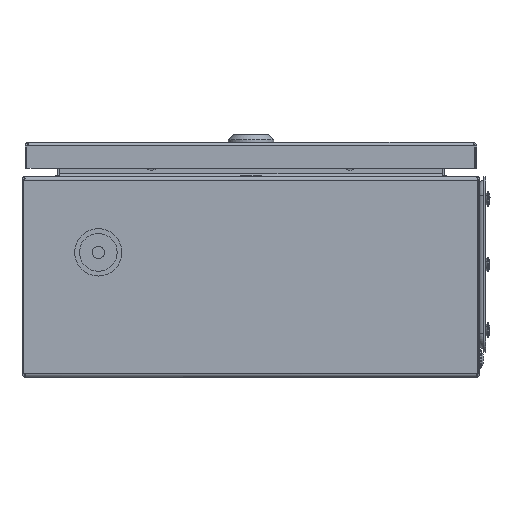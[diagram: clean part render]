
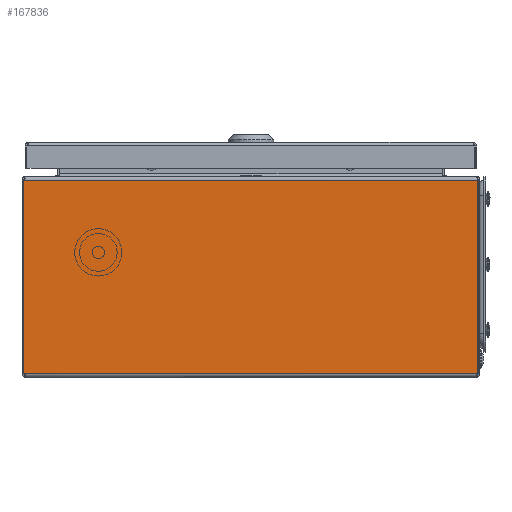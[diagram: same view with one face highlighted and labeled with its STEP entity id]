
A CAD part, left-side view. The second image highlights one B-rep face of the part: STEP entity #167836.
In plain terms, the highlighted planar face has unit normal (-1, 0, 0).
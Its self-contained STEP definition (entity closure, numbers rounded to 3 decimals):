
#236 = EDGE_CURVE ( 'NONE', #74096, #170615, #2399, .T. ) ;
#846 = CARTESIAN_POINT ( 'NONE',  ( -200., 148.623, 2.7 ) ) ;
#1826 = AXIS2_PLACEMENT_3D ( 'NONE', #33650, #3626, #47723 ) ;
#2391 = VERTEX_POINT ( 'NONE', #109407 ) ;
#2399 = LINE ( 'NONE', #158152, #129738 ) ;
#3185 = VERTEX_POINT ( 'NONE', #168172 ) ;
#3626 = DIRECTION ( 'NONE',  ( 1., 0., 0. ) ) ;
#5282 = VERTEX_POINT ( 'NONE', #64079 ) ;
#8700 = EDGE_CURVE ( 'NONE', #170615, #2391, #181074, .T. ) ;
#12324 = CARTESIAN_POINT ( 'NONE',  ( -200., 148.729, 129.25 ) ) ;
#13065 = LINE ( 'NONE', #846, #46032 ) ;
#21455 = CARTESIAN_POINT ( 'NONE',  ( -200., 148.729, 2.7 ) ) ;
#27078 = CARTESIAN_POINT ( 'NONE',  ( -200., -148.623, 2.7 ) ) ;
#27507 = ORIENTED_EDGE ( 'NONE', *, *, #8700, .T. ) ;
#32065 = LINE ( 'NONE', #103426, #89320 ) ;
#33650 = CARTESIAN_POINT ( 'NONE',  ( -200., -2150., 129.25 ) ) ;
#36533 = LINE ( 'NONE', #21455, #163631 ) ;
#38682 = CARTESIAN_POINT ( 'NONE',  ( -200., -2150., 129.25 ) ) ;
#43218 = CARTESIAN_POINT ( 'NONE',  ( -200., 148.623, 2.7 ) ) ;
#46032 = VECTOR ( 'NONE', #115287, 1000. ) ;
#46394 = ORIENTED_EDGE ( 'NONE', *, *, #67405, .T. ) ;
#47723 = DIRECTION ( 'NONE',  ( 0., 0., -1. ) ) ;
#52467 = CARTESIAN_POINT ( 'NONE',  ( -200., -148.729, 2.7 ) ) ;
#60899 = ORIENTED_EDGE ( 'NONE', *, *, #236, .T. ) ;
#64079 = CARTESIAN_POINT ( 'NONE',  ( -200., 148.729, 2.7 ) ) ;
#64902 = VECTOR ( 'NONE', #149255, 1000. ) ;
#65732 = LINE ( 'NONE', #180298, #64902 ) ;
#67405 = EDGE_CURVE ( 'NONE', #2391, #3185, #65732, .T. ) ;
#71221 = PLANE ( 'NONE',  #1826 ) ;
#74096 = VERTEX_POINT ( 'NONE', #27078 ) ;
#79573 = ORIENTED_EDGE ( 'NONE', *, *, #170318, .T. ) ;
#83636 = LINE ( 'NONE', #38682, #116655 ) ;
#85668 = EDGE_CURVE ( 'NONE', #74096, #93265, #32065, .T. ) ;
#89320 = VECTOR ( 'NONE', #158757, 1000. ) ;
#93265 = VERTEX_POINT ( 'NONE', #43218 ) ;
#103347 = ORIENTED_EDGE ( 'NONE', *, *, #108292, .F. ) ;
#103426 = CARTESIAN_POINT ( 'NONE',  ( -200., -2150., 2.7 ) ) ;
#106475 = EDGE_CURVE ( 'NONE', #119757, #131019, #116729, .T. ) ;
#106583 = EDGE_LOOP ( 'NONE', ( #79573, #130787, #149872, #103347, #112596, #60899, #27507, #46394 ) ) ;
#108292 = EDGE_CURVE ( 'NONE', #93265, #5282, #13065, .T. ) ;
#109407 = CARTESIAN_POINT ( 'NONE',  ( -200., -148.729, 129.25 ) ) ;
#111766 = CARTESIAN_POINT ( 'NONE',  ( -200., 148.623, 129.25 ) ) ;
#112596 = ORIENTED_EDGE ( 'NONE', *, *, #85668, .F. ) ;
#115287 = DIRECTION ( 'NONE',  ( 0., 1., 0. ) ) ;
#116655 = VECTOR ( 'NONE', #124015, 1000. ) ;
#116729 = LINE ( 'NONE', #159903, #153075 ) ;
#119757 = VERTEX_POINT ( 'NONE', #12324 ) ;
#120439 = DIRECTION ( 'NONE',  ( 0., -1., 0. ) ) ;
#121894 = DIRECTION ( 'NONE',  ( 0., 0., 1. ) ) ;
#124015 = DIRECTION ( 'NONE',  ( 0., 1., 0. ) ) ;
#127538 = FACE_OUTER_BOUND ( 'NONE', #106583, .T. ) ;
#129738 = VECTOR ( 'NONE', #159109, 1000. ) ;
#130787 = ORIENTED_EDGE ( 'NONE', *, *, #106475, .F. ) ;
#131019 = VERTEX_POINT ( 'NONE', #111766 ) ;
#132253 = CARTESIAN_POINT ( 'NONE',  ( -200., -148.729, 2.7 ) ) ;
#149255 = DIRECTION ( 'NONE',  ( 0., 1., 0. ) ) ;
#149872 = ORIENTED_EDGE ( 'NONE', *, *, #159672, .F. ) ;
#153075 = VECTOR ( 'NONE', #120439, 1000. ) ;
#158152 = CARTESIAN_POINT ( 'NONE',  ( -200., -148.623, 2.7 ) ) ;
#158757 = DIRECTION ( 'NONE',  ( 0., 1., 0. ) ) ;
#159109 = DIRECTION ( 'NONE',  ( 0., -1., 0. ) ) ;
#159672 = EDGE_CURVE ( 'NONE', #5282, #119757, #36533, .T. ) ;
#159903 = CARTESIAN_POINT ( 'NONE',  ( -200., 148.729, 129.25 ) ) ;
#163631 = VECTOR ( 'NONE', #175454, 1000. ) ;
#167836 = ADVANCED_FACE ( 'NONE', ( #127538 ), #71221, .F. ) ;
#168172 = CARTESIAN_POINT ( 'NONE',  ( -200., -148.623, 129.25 ) ) ;
#170318 = EDGE_CURVE ( 'NONE', #3185, #131019, #83636, .T. ) ;
#170615 = VERTEX_POINT ( 'NONE', #132253 ) ;
#175454 = DIRECTION ( 'NONE',  ( 0., 0., 1. ) ) ;
#180298 = CARTESIAN_POINT ( 'NONE',  ( -200., -148.729, 129.25 ) ) ;
#181074 = LINE ( 'NONE', #52467, #183317 ) ;
#183317 = VECTOR ( 'NONE', #121894, 1000. ) ;
